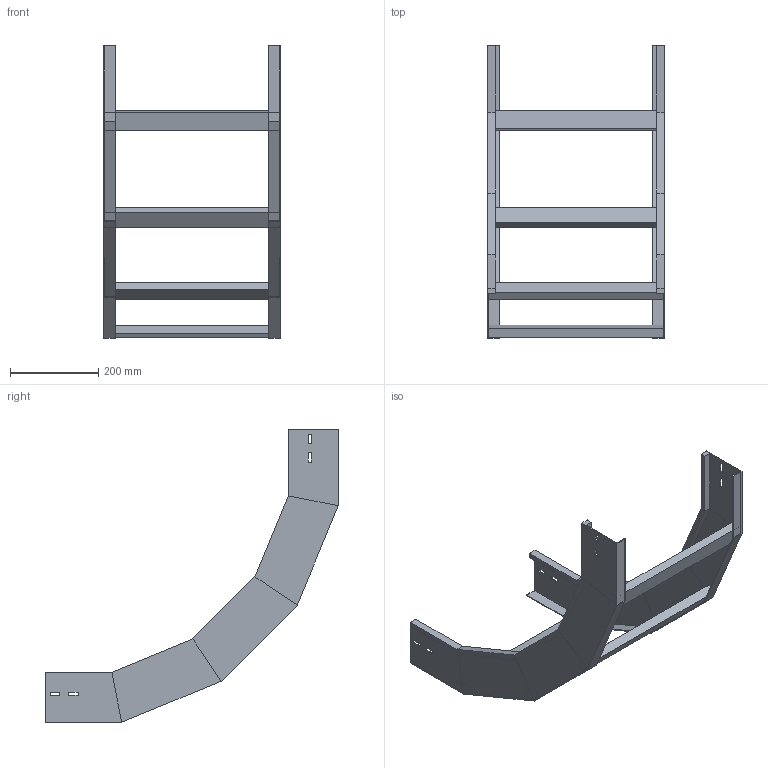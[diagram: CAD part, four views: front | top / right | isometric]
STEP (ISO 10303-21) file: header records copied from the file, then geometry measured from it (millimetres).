
FILE_DESCRIPTION (( 'STEP AP214' ), '1' );
FILE_NAME ('A2X30B5J400XX.step', '2025-03-20T10:22:03', ( '' ), ( '' ), 'SwSTEP 2.0', 'SolidWorks 2023', '' );
FILE_SCHEMA (( 'AUTOMOTIVE_DESIGN' ));
Length unit declared in the file: millimetre
Products named in the file (3): A2X30B5J400XX; LONGH.SALITA_90°_H112.5_R500; TRAVERSINO_400
Assembly tree (6 placements, depth 2):
  A2X30B5J400XX
    LONGH.SALITA_90°_H112.5_R500  x2
    TRAVERSINO_400  x4
Bounding box: 400 x 661.62 x 661.62 mm (x, y, z)
Volume: 2177708.4 mm3; surface area: 814191.7 mm2
Topology: 6 solids, 6 shells, 140 faces, 320 edges, 192 vertices
Faces by surface type: plane 140
Entity records: 1872 total; most frequent: CARTESIAN_POINT 309, ORIENTED_EDGE 296, DIRECTION 294, EDGE_CURVE 148, LINE 148, VECTOR 148, VERTEX_POINT 88, AXIS2_PLACEMENT_3D 73
